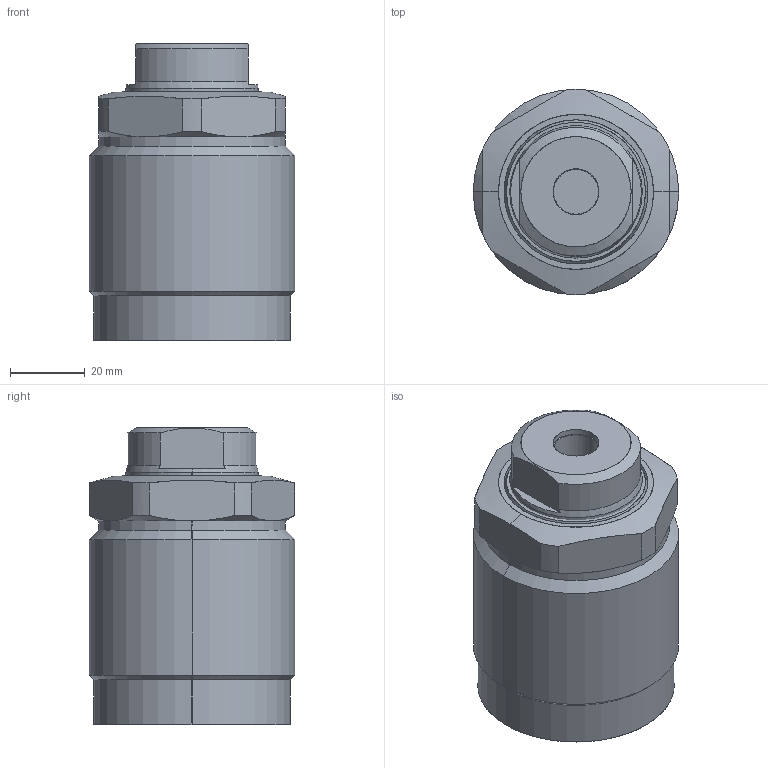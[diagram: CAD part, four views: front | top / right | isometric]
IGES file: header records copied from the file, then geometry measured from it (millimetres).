
Start section: SolidWorks IGES file using analytic representation for surfaces
Global section: file name: D:\abhilash\nijil\cylinder\Clasys1\dp converted\07\pt\0702\0102-0702.IGS; native system: SolidWorks 2010; preprocessor: SolidWorks 2010; author: nidheesh; date: 130730.113237; units: millimetre
Bounding box: 55 x 55 x 79.5 mm (x, y, z)
Surface area: 21784.4 mm2 (no closed solid volume)
Topology: 0 solids, 0 shells, 76 faces, 1244 edges, 1244 vertices
Faces by surface type: revolution 52, bspline 24
